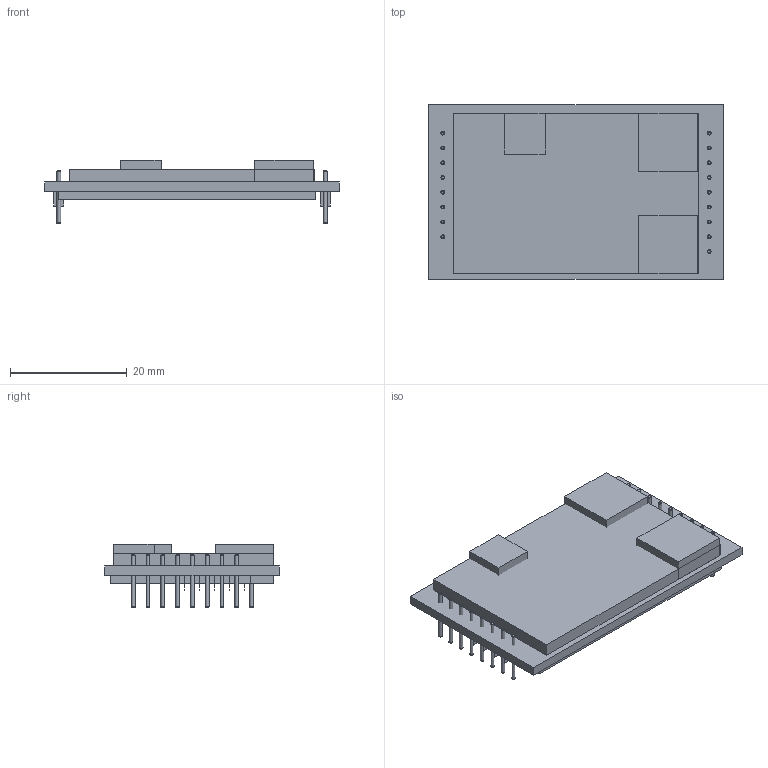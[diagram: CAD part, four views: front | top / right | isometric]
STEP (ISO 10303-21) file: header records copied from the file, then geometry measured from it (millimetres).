
FILE_DESCRIPTION(('FreeCAD Model'),'2;1');
FILE_NAME('Ag210.step','2020-03-17T14:22:24',( 'Author'),(''),'Open CASCADE STEP processor 7.3','FreeCAD','Unknown' );
FILE_SCHEMA(('AUTOMOTIVE_DESIGN { 1 0 10303 214 1 1 1 1 }'));
Length unit declared in the file: millimetre
Products named in the file (7): PCB; Pins; Top_componets; inductors; header_plastic; Bottom_Components; Fillet
Bounding box: 50.6 x 30 x 10.84 mm (x, y, z)
Volume: 10055.2 mm3; surface area: 13093.9 mm2
Topology: 28 solids, 32 shells, 145 faces, 241 edges, 160 vertices
Faces by surface type: plane 94, torus 34, cylinder 17
Full cylindrical faces by diameter (mm): 0.64 x17
Entity records: 15478 total; most frequent: CARTESIAN_POINT 2439, DIRECTION 2335, LINE 1557, VECTOR 1557, ORIENTED_EDGE 1234, PCURVE 1174, DEFINITIONAL_REPRESENTATION 1174, EDGE_CURVE 587
